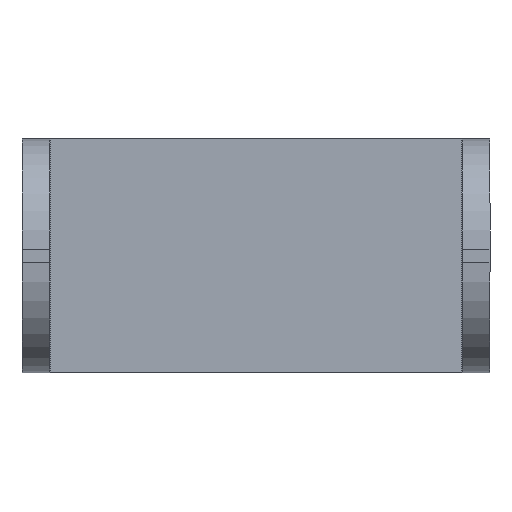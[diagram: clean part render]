
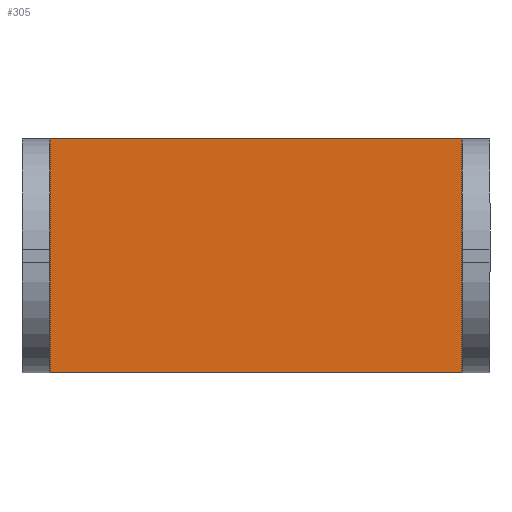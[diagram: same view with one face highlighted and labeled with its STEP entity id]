
A CAD part, left-side view. The second image highlights one B-rep face of the part: STEP entity #305.
In plain terms, the highlighted planar face has unit normal (-1, 0, 0).
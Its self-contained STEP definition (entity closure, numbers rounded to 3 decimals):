
#9 = EDGE_CURVE ( 'NONE', #168, #164, #177, .T. ) ;
#17 = VERTEX_POINT ( 'NONE', #216 ) ;
#68 = EDGE_CURVE ( 'NONE', #173, #17, #467, .T. ) ;
#96 = EDGE_CURVE ( 'NONE', #17, #164, #617, .T. ) ;
#164 = VERTEX_POINT ( 'NONE', #435 ) ;
#168 = VERTEX_POINT ( 'NONE', #601 ) ;
#173 = VERTEX_POINT ( 'NONE', #600 ) ;
#177 = LINE ( 'NONE', #209, #208 ) ;
#207 = DIRECTION ( 'NONE',  ( 0., 1., 0. ) ) ;
#208 = VECTOR ( 'NONE', #207, 1000. ) ;
#209 = CARTESIAN_POINT ( 'NONE',  ( -2., 0., 0. ) ) ;
#216 = CARTESIAN_POINT ( 'NONE',  ( -2., 31.95, 17. ) ) ;
#242 = ORIENTED_EDGE ( 'NONE', *, *, #9, .F. ) ;
#300 = EDGE_CURVE ( 'NONE', #173, #168, #805, .T. ) ;
#305 = ADVANCED_FACE ( 'NONE', ( #811 ), #807, .T. ) ;
#307 = ORIENTED_EDGE ( 'NONE', *, *, #96, .T. ) ;
#329 = EDGE_LOOP ( 'NONE', ( #242, #332, #354, #307 ) ) ;
#332 = ORIENTED_EDGE ( 'NONE', *, *, #300, .F. ) ;
#354 = ORIENTED_EDGE ( 'NONE', *, *, #68, .T. ) ;
#435 = CARTESIAN_POINT ( 'NONE',  ( -2., 31.95, 0. ) ) ;
#466 = CARTESIAN_POINT ( 'NONE',  ( -2., 0., 17. ) ) ;
#467 = LINE ( 'NONE', #466, #474 ) ;
#473 = DIRECTION ( 'NONE',  ( 0., 1., 0. ) ) ;
#474 = VECTOR ( 'NONE', #473, 1000. ) ;
#600 = CARTESIAN_POINT ( 'NONE',  ( -2., 2.05, 17. ) ) ;
#601 = CARTESIAN_POINT ( 'NONE',  ( -2., 2.05, 0. ) ) ;
#614 = DIRECTION ( 'NONE',  ( 0., 0., -1. ) ) ;
#615 = VECTOR ( 'NONE', #614, 1000. ) ;
#616 = CARTESIAN_POINT ( 'NONE',  ( -2., 31.95, 17. ) ) ;
#617 = LINE ( 'NONE', #616, #615 ) ;
#795 = DIRECTION ( 'NONE',  ( 0., 0., 1. ) ) ;
#796 = DIRECTION ( 'NONE',  ( -1., 0., 0. ) ) ;
#800 = AXIS2_PLACEMENT_3D ( 'NONE', #812, #796, #795 ) ;
#802 = DIRECTION ( 'NONE',  ( 0., 0., -1. ) ) ;
#803 = VECTOR ( 'NONE', #802, 1000. ) ;
#804 = CARTESIAN_POINT ( 'NONE',  ( -2., 2.05, 17. ) ) ;
#805 = LINE ( 'NONE', #804, #803 ) ;
#807 = PLANE ( 'NONE',  #800 ) ;
#811 = FACE_OUTER_BOUND ( 'NONE', #329, .T. ) ;
#812 = CARTESIAN_POINT ( 'NONE',  ( -2., 0., 17. ) ) ;
